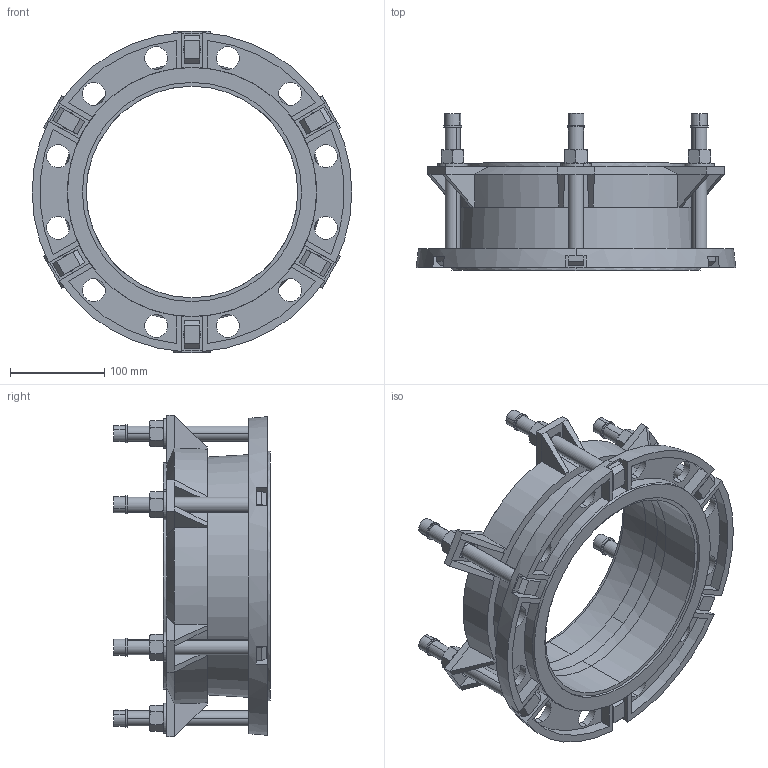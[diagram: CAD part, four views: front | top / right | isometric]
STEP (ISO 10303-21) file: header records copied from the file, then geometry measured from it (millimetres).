
FILE_DESCRIPTION (( 'STEP AP203' ), '1' );
FILE_NAME ('O_623_10_DN200-225mm_X1XXXXX_REV01.step', '2020-04-17T09:03:25', ( '' ), ( '' ), 'SwSTEP 2.0', 'SolidWorks 2019', '' );
FILE_SCHEMA (( 'CONFIG_CONTROL_DESIGN' ));
Length unit declared in the file: millimetre
Products named in the file (1): O_623_10_DN200-225mm_X1XXXXX_REV01
Bounding box: 340 x 166.5 x 342 mm (x, y, z)
Volume: 2313102.4 mm3; surface area: 406681.2 mm2
Topology: 1 solids, 1 shells, 583 faces, 1458 edges, 903 vertices
Faces by surface type: plane 299, cylinder 183, cone 99, bspline 2
Entity records: 18228 total; most frequent: CARTESIAN_POINT 4293, ORIENTED_EDGE 2916, DIRECTION 2849, EDGE_CURVE 1458, AXIS2_PLACEMENT_3D 1087, VERTEX_POINT 903, LINE 675, VECTOR 675
